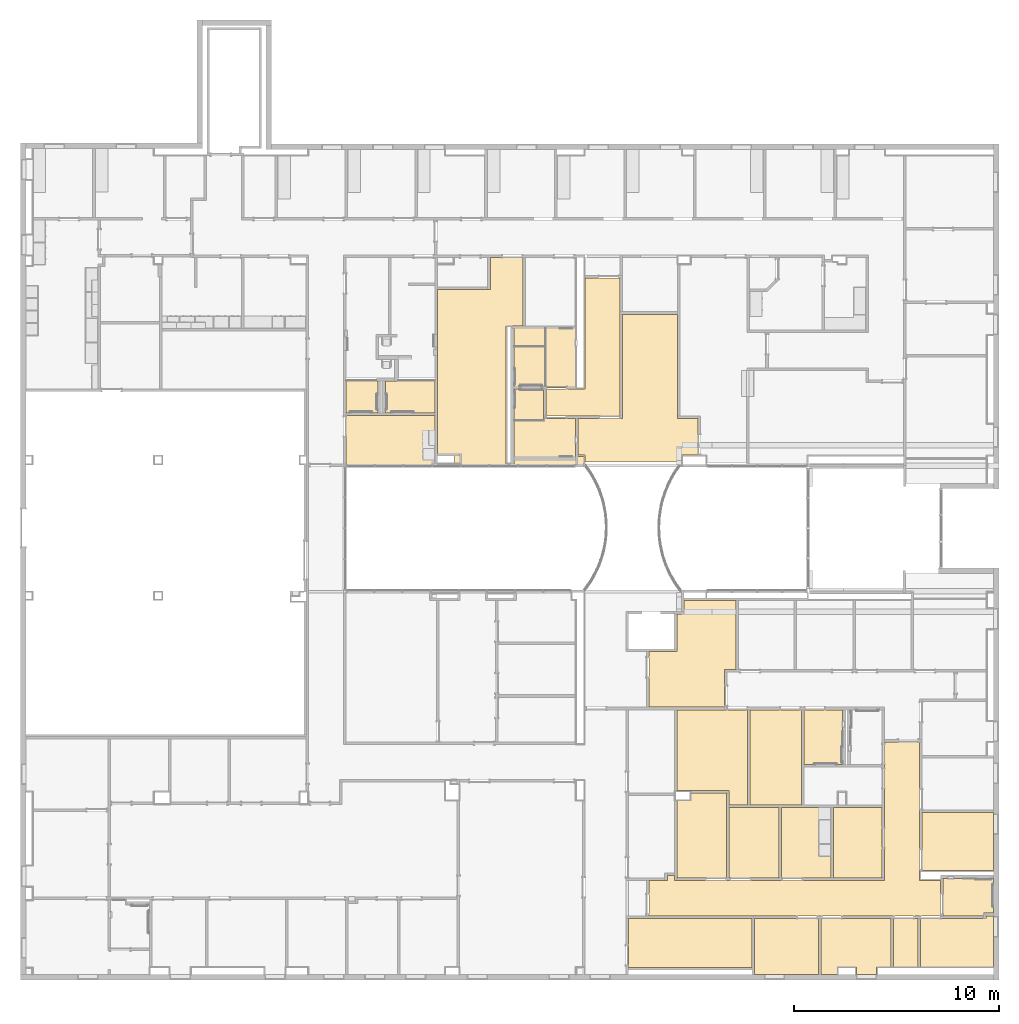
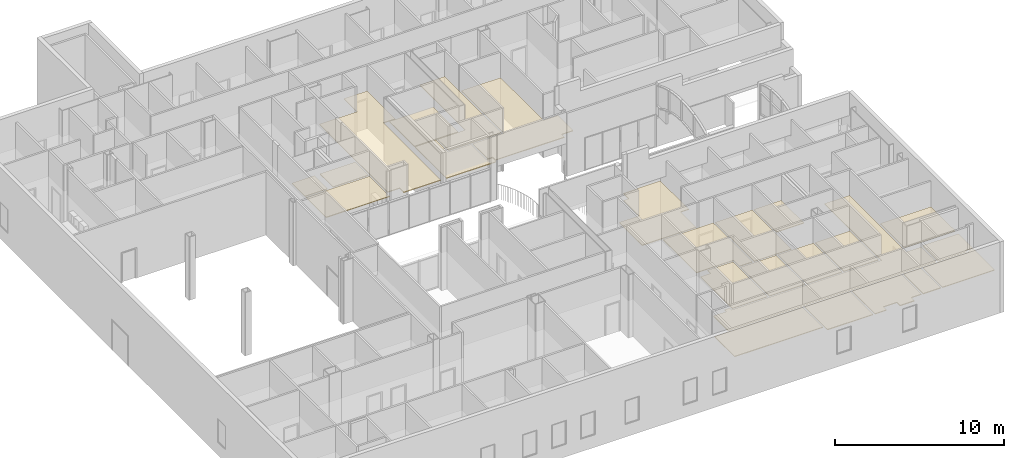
# One storey, part 27 of 45: 24 coverings.
"""IFC2X3 building model written with IfcOpenShell, lengths in metres."""

from ifc_helpers import new_model, entity, si_unit, converted_unit, frame, origin, place, context, project, spatial, face_set, surface_model, material, layer, layer_set, layer_usage, element, save


model = new_model("IFC2X3")

# Units and contexts
model_context = context("Model", 3, precision=1e-09, world=origin())
plan_context = context("Plan", 3, precision=1e-09, world=origin())
ifc_project = project(units=[si_unit("LENGTHUNIT", "METRE"), si_unit("AREAUNIT", "SQUARE_METRE"), si_unit("VOLUMEUNIT", "CUBIC_METRE"), converted_unit("PLANEANGLEUNIT", "DEGREE", entity("IfcRatioMeasure", 0.01745329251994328), si_unit("PLANEANGLEUNIT", "RADIAN"), dimensions=[0, 0, 0, 0, 0, 0, 0]), si_unit("TIMEUNIT", "SECOND")], contexts=[model_context, plan_context])

# Site, building, storey
site_placement = place(None, origin())
site = spatial("IfcSite", under=ifc_project, at=site_placement, Name="Default", CompositionType="ELEMENT")
building_placement = place(site_placement, origin())
building = spatial("IfcBuilding", under=site, at=building_placement, CompositionType="ELEMENT")
storey_placement = place(building_placement, frame((0.0, 0.0, 4.570000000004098)))
storey = spatial("IfcBuildingStorey", under=building, at=storey_placement, Name="Second Floor", CompositionType="ELEMENT", Elevation=4.570000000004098)

# Coverings
ifc_material_1 = material(Name="Default")
ifc_layer_1 = layer(ifc_material_1, 0.03599999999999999)
ifc_material_2 = material(Name="Ceiling Tile 600 x 600")
ifc_layer_2 = layer(ifc_material_2, 0.016)
ifc_layer_set = layer_set([ifc_layer_1, ifc_layer_2], Name="Compound Ceiling:ACT 600 x 600mm Grid")
ifc_layer_usage = layer_usage(ifc_layer_set, "AXIS3", "NEGATIVE", 0.0)
covering_1_placement = place(storey_placement, origin())
element("IfcCovering", 1, at=covering_1_placement, inside=storey, material=ifc_layer_usage, Name="Compound Ceiling:ACT 600 x 600mm Grid", ObjectType="Compound Ceiling:ACT 600 x 600mm Grid", PredefinedType="CEILING", context=model_context, shape_type="SurfaceModel", body=[
    surface_model("IfcFaceBasedSurfaceModel", [(0.1129999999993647, 14.61443871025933, 2.732000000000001), (0.112999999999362, 12.91843871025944, 2.732000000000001), (-0.3790000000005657, 12.91843871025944, 2.732000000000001), (-0.3790000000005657, 12.77999999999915, 2.732000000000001), (-2.340000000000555, 12.77999999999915, 2.732000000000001), (-2.340000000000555, 14.61443871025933, 2.732000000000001), (0.1129999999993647, 14.61443871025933, 2.680000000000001), (0.112999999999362, 12.91843871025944, 2.680000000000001), (-0.3790000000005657, 12.91843871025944, 2.680000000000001), (-0.3790000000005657, 12.77999999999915, 2.680000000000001), (-2.340000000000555, 12.77999999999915, 2.680000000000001), (-2.340000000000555, 14.61443871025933, 2.680000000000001)], [face_set([[[0, 1, 2, 3, 4, 5]], [[6, 7, 8, 9, 10, 11]], [[5, 11, 6, 0]], [[4, 10, 11, 5]], [[3, 4, 10, 9]], [[2, 3, 9, 8]], [[1, 2, 8, 7]], [[0, 1, 7, 6]]])]),
])
covering_2_placement = place(storey_placement, origin())
element("IfcCovering", 2, at=covering_2_placement, inside=storey, material=ifc_layer_usage, Name="Compound Ceiling:ACT 600 x 600mm Grid", ObjectType="Compound Ceiling:ACT 600 x 600mm Grid", PredefinedType="CEILING", context=model_context, shape_type="SurfaceModel", body=[
    surface_model("IfcFaceBasedSurfaceModel", [(-16.70600000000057, 25.68339999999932, 2.732000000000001), (-15.34600000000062, 25.68339999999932, 2.732000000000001), (-15.34600000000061, 27.52189999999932, 2.732000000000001), (-14.98597500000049, 27.52189999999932, 2.732000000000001), (-14.98597500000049, 28.18443871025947, 2.732000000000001), (-12.45397500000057, 28.18443871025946, 2.732000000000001), (-12.45397500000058, 24.80843871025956, 2.732000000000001), (-13.01000000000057, 24.80843871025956, 2.732000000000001), (-13.01000000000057, 22.97443871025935, 2.732000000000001), (-16.70600000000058, 22.97443871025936, 2.732000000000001), (-16.70600000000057, 25.68339999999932, 2.680000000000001), (-16.70600000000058, 22.97443871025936, 2.680000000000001), (-13.01000000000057, 22.97443871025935, 2.680000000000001), (-13.01000000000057, 24.80843871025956, 2.680000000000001), (-12.45397500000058, 24.80843871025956, 2.680000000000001), (-12.45397500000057, 28.18443871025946, 2.680000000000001), (-14.98597500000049, 28.18443871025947, 2.680000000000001), (-14.98597500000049, 27.52189999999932, 2.680000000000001), (-15.34600000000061, 27.52189999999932, 2.680000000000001), (-15.34600000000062, 25.68339999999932, 2.680000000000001)], [face_set([[[0, 1, 2, 3, 4, 5, 6, 7, 8, 9]], [[10, 11, 12, 13, 14, 15, 16, 17, 18, 19]], [[9, 11, 10, 0]], [[8, 9, 11, 12]], [[7, 8, 12, 13]], [[6, 7, 13, 14]], [[5, 6, 14, 15]], [[4, 16, 15, 5]], [[3, 17, 16, 4]], [[2, 18, 17, 3]], [[1, 19, 18, 2]], [[0, 10, 19, 1]]])]),
])
covering_3_placement = place(storey_placement, origin())
element("IfcCovering", 3, at=covering_3_placement, inside=storey, material=ifc_layer_usage, Name="Compound Ceiling:ACT 600 x 600mm Grid", ObjectType="Compound Ceiling:ACT 600 x 600mm Grid", PredefinedType="CEILING", context=model_context, shape_type="SurfaceModel", body=[
    surface_model("IfcFaceBasedSurfaceModel", [(-20.29000000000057, 41.54043871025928, 2.732000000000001), (-20.29000000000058, 38.56835336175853, 2.732000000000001), (-23.2900000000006, 38.56835336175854, 2.732000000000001), (-23.2900000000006, 41.54043871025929, 2.732000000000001), (-20.29000000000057, 41.54043871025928, 2.680000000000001), (-20.29000000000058, 38.56835336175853, 2.680000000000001), (-23.2900000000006, 38.56835336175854, 2.680000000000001), (-23.2900000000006, 41.54043871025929, 2.680000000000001)], [face_set([[[0, 1, 2, 3]], [[4, 5, 6, 7]], [[3, 7, 4, 0]], [[2, 6, 7, 3]], [[1, 2, 6, 5]], [[0, 1, 5, 4]]])]),
])
covering_4_placement = place(storey_placement, origin())
element("IfcCovering", 4, at=covering_4_placement, inside=storey, material=ifc_layer_usage, Name="Compound Ceiling:ACT 600 x 600mm Grid", ObjectType="Compound Ceiling:ACT 600 x 600mm Grid", PredefinedType="CEILING", context=model_context, shape_type="SurfaceModel", body=[
    surface_model("IfcFaceBasedSurfaceModel", [(-21.85400000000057, 37.07443871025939, 2.732000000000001), (-20.29000000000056, 37.07443871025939, 2.732000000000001), (-20.29000000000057, 35.22043871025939, 2.732000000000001), (-19.88400000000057, 35.22043871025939, 2.732000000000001), (-19.88400000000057, 34.77180159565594, 2.732000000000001), (-23.29000000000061, 34.77180159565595, 2.732000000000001), (-23.2900000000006, 38.51435336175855, 2.732000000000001), (-21.85400000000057, 38.51435336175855, 2.732000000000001), (-21.85400000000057, 37.07443871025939, 2.680000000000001), (-20.29000000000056, 37.07443871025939, 2.680000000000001), (-20.29000000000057, 35.22043871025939, 2.680000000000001), (-19.88400000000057, 35.22043871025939, 2.680000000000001), (-19.88400000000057, 34.77180159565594, 2.680000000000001), (-23.29000000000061, 34.77180159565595, 2.680000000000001), (-23.2900000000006, 38.51435336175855, 2.680000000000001), (-21.85400000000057, 38.51435336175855, 2.680000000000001)], [face_set([[[0, 1, 2, 3, 4, 5, 6, 7]], [[8, 9, 10, 11, 12, 13, 14, 15]], [[7, 0, 8, 15]], [[6, 14, 15, 7]], [[5, 13, 14, 6]], [[4, 5, 13, 12]], [[3, 4, 12, 11]], [[2, 10, 11, 3]], [[1, 2, 10, 9]], [[0, 8, 9, 1]]])]),
])
covering_5_placement = place(storey_placement, origin())
element("IfcCovering", 5, at=covering_5_placement, inside=storey, material=ifc_layer_usage, Name="Compound Ceiling:ACT 600 x 600mm Grid", ObjectType="Compound Ceiling:ACT 600 x 600mm Grid", PredefinedType="CEILING", context=model_context, shape_type="SurfaceModel", body=[
    surface_model("IfcFaceBasedSurfaceModel", [(-4.776000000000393, 12.65599999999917, 2.732000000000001), (-3.574000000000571, 12.65599999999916, 2.732000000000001), (-3.574000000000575, 10.30443871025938, 2.732000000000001), (-4.776000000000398, 10.30443871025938, 2.732000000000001), (-4.776000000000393, 12.65599999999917, 2.680000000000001), (-3.574000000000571, 12.65599999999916, 2.680000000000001), (-3.574000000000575, 10.30443871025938, 2.680000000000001), (-4.776000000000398, 10.30443871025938, 2.680000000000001)], [face_set([[[0, 1, 2, 3]], [[4, 5, 6, 7]], [[3, 7, 4, 0]], [[2, 3, 7, 6]], [[1, 2, 6, 5]], [[0, 4, 5, 1]]])]),
])
covering_6_placement = place(storey_placement, origin())
element("IfcCovering", 6, at=covering_6_placement, inside=storey, material=ifc_layer_usage, Name="Compound Ceiling:ACT 600 x 600mm Grid", ObjectType="Compound Ceiling:ACT 600 x 600mm Grid", PredefinedType="CEILING", context=model_context, shape_type="SurfaceModel", body=[
    surface_model("IfcFaceBasedSurfaceModel", [(-0.2550000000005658, 12.65599999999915, 2.732000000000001), (-0.2550000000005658, 12.79443871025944, 2.732000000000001), (0.1129999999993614, 12.79443871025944, 2.732000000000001), (0.1129999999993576, 10.30443871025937, 2.732000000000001), (-3.450000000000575, 10.30443871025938, 2.732000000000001), (-3.450000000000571, 12.65599999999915, 2.732000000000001), (-0.2550000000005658, 12.65599999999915, 2.680000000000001), (-0.2550000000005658, 12.79443871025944, 2.680000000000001), (0.1129999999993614, 12.79443871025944, 2.680000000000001), (0.1129999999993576, 10.30443871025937, 2.680000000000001), (-3.450000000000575, 10.30443871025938, 2.680000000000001), (-3.450000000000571, 12.65599999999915, 2.680000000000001)], [face_set([[[0, 1, 2, 3, 4, 5]], [[6, 7, 8, 9, 10, 11]], [[5, 11, 6, 0]], [[4, 10, 11, 5]], [[3, 4, 10, 9]], [[2, 3, 9, 8]], [[1, 7, 8, 2]], [[0, 6, 7, 1]]])]),
])
covering_7_placement = place(storey_placement, origin())
element("IfcCovering", 7, at=covering_7_placement, inside=storey, material=ifc_layer_usage, Name="Compound Ceiling:ACT 600 x 600mm Grid", ObjectType="Compound Ceiling:ACT 600 x 600mm Grid", PredefinedType="CEILING", context=model_context, shape_type="SurfaceModel", body=[
    surface_model("IfcFaceBasedSurfaceModel", [(-3.366000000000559, 17.84393871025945, 2.732000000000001), (0.1129999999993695, 17.84393871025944, 2.732000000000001), (0.1129999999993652, 14.99443871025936, 2.732000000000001), (-3.366000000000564, 14.99443871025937, 2.732000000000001), (-3.366000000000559, 17.84393871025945, 2.680000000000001), (0.1129999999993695, 17.84393871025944, 2.680000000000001), (0.1129999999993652, 14.99443871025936, 2.680000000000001), (-3.366000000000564, 14.99443871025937, 2.680000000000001)], [face_set([[[0, 1, 2, 3]], [[4, 5, 6, 7]], [[3, 7, 4, 0]], [[2, 3, 7, 6]], [[1, 2, 6, 5]], [[0, 4, 5, 1]]])]),
])
covering_8_placement = place(storey_placement, origin())
element("IfcCovering", 8, at=covering_8_placement, inside=storey, material=ifc_layer_usage, Name="Compound Ceiling:ACT 600 x 600mm Grid", ObjectType="Compound Ceiling:ACT 600 x 600mm Grid", PredefinedType="CEILING", context=model_context, shape_type="SurfaceModel", body=[
    surface_model("IfcFaceBasedSurfaceModel", [(-15.46000000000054, 14.52443871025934, 2.732000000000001), (-5.200000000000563, 14.52443871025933, 2.732000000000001), (-5.200000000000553, 21.27703871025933, 2.732000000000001), (-3.490000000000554, 21.27703871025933, 2.732000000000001), (-3.490000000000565, 14.52443871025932, 2.732000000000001), (-2.464000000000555, 14.52443871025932, 2.732000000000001), (-2.464000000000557, 12.77999999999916, 2.732000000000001), (-16.70600000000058, 12.7799999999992, 2.732000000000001), (-16.70600000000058, 14.52443871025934, 2.732000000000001), (-15.81000000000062, 14.52443871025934, 2.732000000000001), (-15.81000000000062, 14.74943871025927, 2.732000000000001), (-15.46000000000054, 14.74943871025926, 2.732000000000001), (-15.46000000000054, 14.52443871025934, 2.680000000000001), (-15.46000000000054, 14.74943871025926, 2.680000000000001), (-15.81000000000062, 14.74943871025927, 2.680000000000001), (-15.81000000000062, 14.52443871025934, 2.680000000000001), (-16.70600000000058, 14.52443871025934, 2.680000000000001), (-16.70600000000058, 12.7799999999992, 2.680000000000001), (-2.464000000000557, 12.77999999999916, 2.680000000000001), (-2.464000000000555, 14.52443871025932, 2.680000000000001), (-3.490000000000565, 14.52443871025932, 2.680000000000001), (-3.490000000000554, 21.27703871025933, 2.680000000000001), (-5.200000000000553, 21.27703871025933, 2.680000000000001), (-5.200000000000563, 14.52443871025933, 2.680000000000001)], [face_set([[[0, 1, 2, 3, 4, 5, 6, 7, 8, 9, 10, 11]], [[12, 13, 14, 15, 16, 17, 18, 19, 20, 21, 22, 23]], [[11, 0, 12, 13]], [[10, 14, 13, 11]], [[9, 15, 14, 10]], [[8, 16, 15, 9]], [[7, 17, 16, 8]], [[6, 7, 17, 18]], [[5, 6, 18, 19]], [[4, 20, 19, 5]], [[3, 4, 20, 21]], [[2, 22, 21, 3]], [[1, 23, 22, 2]], [[0, 12, 23, 1]]])]),
])
covering_9_placement = place(storey_placement, origin())
element("IfcCovering", 9, at=covering_9_placement, inside=storey, material=ifc_layer_usage, Name="Compound Ceiling:ACT 600 x 600mm Grid", ObjectType="Compound Ceiling:ACT 600 x 600mm Grid", PredefinedType="CEILING", context=model_context, shape_type="SurfaceModel", body=[
    surface_model("IfcFaceBasedSurfaceModel", [(-29.56000000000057, 38.90976656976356, 2.732000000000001), (-29.00200000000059, 38.90976656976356, 2.732000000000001), (-27.15000000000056, 38.90976656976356, 2.732000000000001), (-27.15000000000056, 37.34443871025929, 2.732000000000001), (-29.56000000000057, 37.3444387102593, 2.732000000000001), (-29.56000000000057, 38.90976656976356, 2.680000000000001), (-29.00200000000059, 38.90976656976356, 2.680000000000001), (-27.15000000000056, 38.90976656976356, 2.680000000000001), (-27.15000000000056, 37.34443871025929, 2.680000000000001), (-29.56000000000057, 37.3444387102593, 2.680000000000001)], [face_set([[[0, 1, 2, 3, 4]], [[5, 6, 7, 8, 9]], [[4, 9, 5, 0]], [[3, 4, 9, 8]], [[2, 3, 8, 7]], [[1, 6, 7, 2]], [[0, 5, 6, 1]]])]),
])
covering_10_placement = place(storey_placement, origin())
element("IfcCovering", 10, at=covering_10_placement, inside=storey, material=ifc_layer_usage, Name="Compound Ceiling:ACT 600 x 600mm Grid", ObjectType="Compound Ceiling:ACT 600 x 600mm Grid", PredefinedType="CEILING", context=model_context, shape_type="SurfaceModel", body=[
    surface_model("IfcFaceBasedSurfaceModel", [(-17.70600000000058, 12.65599999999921, 2.732000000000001), (-11.67399985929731, 12.65599999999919, 2.732000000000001), (-11.67399985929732, 10.26999983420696, 2.732000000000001), (-17.70600000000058, 10.26999983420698, 2.732000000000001), (-17.70600000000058, 12.65599999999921, 2.680000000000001), (-11.67399985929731, 12.65599999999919, 2.680000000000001), (-11.67399985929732, 10.26999983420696, 2.680000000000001), (-17.70600000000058, 10.26999983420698, 2.680000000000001)], [face_set([[[0, 1, 2, 3]], [[4, 5, 6, 7]], [[3, 7, 4, 0]], [[2, 3, 7, 6]], [[1, 2, 6, 5]], [[0, 4, 5, 1]]])]),
])
covering_11_placement = place(storey_placement, origin())
element("IfcCovering", 11, at=covering_11_placement, inside=storey, material=ifc_layer_usage, Name="Compound Ceiling:ACT 600 x 600mm Grid", ObjectType="Compound Ceiling:ACT 600 x 600mm Grid", PredefinedType="CEILING", context=model_context, shape_type="SurfaceModel", body=[
    surface_model("IfcFaceBasedSurfaceModel", [(-24.45000000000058, 43.36443871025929, 2.732000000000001), (-24.45000000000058, 44.92043871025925, 2.732000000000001), (-22.85400000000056, 44.92043871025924, 2.732000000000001), (-22.85400000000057, 41.5944387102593, 2.732000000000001), (-23.6700000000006, 41.5944387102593, 2.732000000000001), (-23.67000000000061, 34.77180159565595, 2.732000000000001), (-26.21000000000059, 34.77180159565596, 2.732000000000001), (-26.21000000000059, 35.2744387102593, 2.732000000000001), (-27.02600000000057, 35.2744387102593, 2.732000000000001), (-27.02600000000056, 43.3644387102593, 2.732000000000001), (-24.45000000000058, 43.36443871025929, 2.680000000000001), (-24.45000000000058, 44.92043871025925, 2.680000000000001), (-22.85400000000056, 44.92043871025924, 2.680000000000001), (-22.85400000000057, 41.5944387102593, 2.680000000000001), (-23.6700000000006, 41.5944387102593, 2.680000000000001), (-23.67000000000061, 34.77180159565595, 2.680000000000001), (-26.21000000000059, 34.77180159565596, 2.680000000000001), (-26.21000000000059, 35.2744387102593, 2.680000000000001), (-27.02600000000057, 35.2744387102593, 2.680000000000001), (-27.02600000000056, 43.3644387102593, 2.680000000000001)], [face_set([[[0, 1, 2, 3, 4, 5, 6, 7, 8, 9]], [[10, 11, 12, 13, 14, 15, 16, 17, 18, 19]], [[9, 19, 10, 0]], [[8, 18, 19, 9]], [[7, 8, 18, 17]], [[6, 16, 17, 7]], [[5, 6, 16, 15]], [[4, 5, 15, 14]], [[3, 4, 14, 13]], [[2, 3, 13, 12]], [[1, 11, 12, 2]], [[0, 10, 11, 1]]])]),
])
covering_12_placement = place(storey_placement, origin())
element("IfcCovering", 12, at=covering_12_placement, inside=storey, material=ifc_layer_usage, Name="Compound Ceiling:ACT 600 x 600mm Grid", ObjectType="Compound Ceiling:ACT 600 x 600mm Grid", PredefinedType="CEILING", context=model_context, shape_type="SurfaceModel", body=[
    surface_model("IfcFaceBasedSurfaceModel", [(-14.32000000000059, 35.27443871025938, 2.732000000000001), (-15.10997500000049, 35.27443871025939, 2.732000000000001), (-15.10997500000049, 34.94688750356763, 2.732000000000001), (-19.83000000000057, 34.94688750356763, 2.732000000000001), (-19.83000000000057, 35.2744387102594, 2.732000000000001), (-20.16600000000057, 35.2744387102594, 2.732000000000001), (-20.16600000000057, 37.07443871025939, 2.732000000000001), (-18.00500000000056, 37.07443871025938, 2.732000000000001), (-18.00500000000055, 42.15600069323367, 2.732000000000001), (-15.32000000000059, 42.15600069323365, 2.732000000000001), (-15.3200000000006, 37.07443871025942, 2.732000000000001), (-14.32000000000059, 37.07443871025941, 2.732000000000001), (-14.32000000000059, 35.27443871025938, 2.680000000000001), (-14.32000000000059, 37.07443871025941, 2.680000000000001), (-15.3200000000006, 37.07443871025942, 2.680000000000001), (-15.32000000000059, 42.15600069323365, 2.680000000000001), (-18.00500000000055, 42.15600069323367, 2.680000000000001), (-18.00500000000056, 37.07443871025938, 2.680000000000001), (-20.16600000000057, 37.07443871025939, 2.680000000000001), (-20.16600000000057, 35.2744387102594, 2.680000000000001), (-19.83000000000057, 35.2744387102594, 2.680000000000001), (-19.83000000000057, 34.94688750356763, 2.680000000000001), (-15.10997500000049, 34.94688750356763, 2.680000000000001), (-15.10997500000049, 35.27443871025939, 2.680000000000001)], [face_set([[[0, 1, 2, 3, 4, 5, 6, 7, 8, 9, 10, 11]], [[12, 13, 14, 15, 16, 17, 18, 19, 20, 21, 22, 23]], [[11, 0, 12, 13]], [[10, 14, 13, 11]], [[9, 10, 14, 15]], [[8, 16, 15, 9]], [[7, 17, 16, 8]], [[6, 18, 17, 7]], [[5, 19, 18, 6]], [[4, 5, 19, 20]], [[3, 21, 20, 4]], [[2, 3, 21, 22]], [[1, 2, 22, 23]], [[0, 1, 23, 12]]])]),
])
covering_13_placement = place(storey_placement, origin())
element("IfcCovering", 13, at=covering_13_placement, inside=storey, material=ifc_layer_usage, Name="Compound Ceiling:ACT 600 x 600mm Grid", ObjectType="Compound Ceiling:ACT 600 x 600mm Grid", PredefinedType="CEILING", context=model_context, shape_type="SurfaceModel", body=[
    surface_model("IfcFaceBasedSurfaceModel", [(-5.324000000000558, 18.08043871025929, 2.732000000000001), (-5.324000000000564, 14.64843871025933, 2.732000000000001), (-7.69600000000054, 14.64843871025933, 2.732000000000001), (-7.696000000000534, 18.08043871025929, 2.732000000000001), (-5.324000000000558, 18.08043871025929, 2.680000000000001), (-5.324000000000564, 14.64843871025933, 2.680000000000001), (-7.69600000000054, 14.64843871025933, 2.680000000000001), (-7.696000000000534, 18.08043871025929, 2.680000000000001)], [face_set([[[0, 1, 2, 3]], [[4, 5, 6, 7]], [[3, 7, 4, 0]], [[2, 6, 7, 3]], [[1, 2, 6, 5]], [[0, 1, 5, 4]]])]),
])
covering_14_placement = place(storey_placement, origin())
element("IfcCovering", 14, at=covering_14_placement, inside=storey, material=ifc_layer_usage, Name="Compound Ceiling:ACT 600 x 600mm Grid", ObjectType="Compound Ceiling:ACT 600 x 600mm Grid", PredefinedType="CEILING", context=model_context, shape_type="SurfaceModel", body=[
    surface_model("IfcFaceBasedSurfaceModel", [(-31.48600000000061, 34.83380159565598, 2.732000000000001), (-31.48600000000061, 37.2204387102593, 2.732000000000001), (-27.15000000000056, 37.22043871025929, 2.732000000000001), (-27.15000000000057, 34.83380159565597, 2.732000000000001), (-31.48600000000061, 34.83380159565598, 2.680000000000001), (-31.48600000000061, 37.2204387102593, 2.680000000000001), (-27.15000000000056, 37.22043871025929, 2.680000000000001), (-27.15000000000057, 34.83380159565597, 2.680000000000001)], [face_set([[[0, 1, 2, 3]], [[4, 5, 6, 7]], [[3, 0, 4, 7]], [[2, 3, 7, 6]], [[1, 5, 6, 2]], [[0, 4, 5, 1]]])]),
])
covering_15_placement = place(storey_placement, origin())
element("IfcCovering", 15, at=covering_15_placement, inside=storey, material=ifc_layer_usage, Name="Compound Ceiling:ACT 600 x 600mm Grid", ObjectType="Compound Ceiling:ACT 600 x 600mm Grid", PredefinedType="CEILING", context=model_context, shape_type="SurfaceModel", body=[
    surface_model("IfcFaceBasedSurfaceModel", [(-29.94000000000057, 37.3444387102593, 2.732000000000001), (-31.48600000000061, 37.3444387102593, 2.732000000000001), (-31.48600000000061, 38.90976656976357, 2.732000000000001), (-29.94000000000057, 38.90976656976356, 2.732000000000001), (-29.94000000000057, 37.3444387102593, 2.680000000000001), (-31.48600000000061, 37.3444387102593, 2.680000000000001), (-31.48600000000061, 38.90976656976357, 2.680000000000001), (-29.94000000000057, 38.90976656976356, 2.680000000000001)], [face_set([[[0, 1, 2, 3]], [[4, 5, 6, 7]], [[3, 0, 4, 7]], [[2, 6, 7, 3]], [[1, 5, 6, 2]], [[0, 1, 5, 4]]])]),
])
covering_16_placement = place(storey_placement, origin())
element("IfcCovering", 16, at=covering_16_placement, inside=storey, material=ifc_layer_usage, Name="Compound Ceiling:ACT 600 x 600mm Grid", ObjectType="Compound Ceiling:ACT 600 x 600mm Grid", PredefinedType="CEILING", context=model_context, shape_type="SurfaceModel", body=[
    surface_model("IfcFaceBasedSurfaceModel", [(-15.33600000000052, 22.85043871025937, 2.732000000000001), (-12.94800000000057, 22.85043871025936, 2.732000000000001), (-11.90000000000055, 22.85043871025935, 2.732000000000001), (-11.90000000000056, 18.20443871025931, 2.732000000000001), (-12.79000000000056, 18.20443871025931, 2.732000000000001), (-12.79000000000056, 18.90443871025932, 2.732000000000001), (-15.33600000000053, 18.90443871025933, 2.732000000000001), (-15.33600000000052, 22.85043871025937, 2.680000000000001), (-12.94800000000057, 22.85043871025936, 2.680000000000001), (-11.90000000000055, 22.85043871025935, 2.680000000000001), (-11.90000000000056, 18.20443871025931, 2.680000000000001), (-12.79000000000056, 18.20443871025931, 2.680000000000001), (-12.79000000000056, 18.90443871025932, 2.680000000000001), (-15.33600000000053, 18.90443871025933, 2.680000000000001)], [face_set([[[0, 1, 2, 3, 4, 5, 6]], [[7, 8, 9, 10, 11, 12, 13]], [[6, 13, 7, 0]], [[5, 6, 13, 12]], [[4, 11, 12, 5]], [[3, 4, 11, 10]], [[2, 3, 10, 9]], [[1, 8, 9, 2]], [[0, 7, 8, 1]]])]),
])
covering_17_placement = place(storey_placement, origin())
element("IfcCovering", 17, at=covering_17_placement, inside=storey, material=ifc_layer_usage, Name="Compound Ceiling:ACT 600 x 600mm Grid", ObjectType="Compound Ceiling:ACT 600 x 600mm Grid", PredefinedType="CEILING", context=model_context, shape_type="SurfaceModel", body=[
    surface_model("IfcFaceBasedSurfaceModel", [(-5.585003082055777, 10.30443871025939, 2.732000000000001), (-5.585003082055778, 9.926999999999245, 2.732000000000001), (-6.585003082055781, 9.926999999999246, 2.732000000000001), (-6.585003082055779, 10.30443871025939, 2.732000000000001), (-7.510000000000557, 10.30443871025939, 2.732000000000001), (-7.510000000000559, 9.92699999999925, 2.732000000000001), (-8.296000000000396, 9.926999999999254, 2.732000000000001), (-8.29600000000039, 12.65599999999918, 2.732000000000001), (-4.900000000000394, 12.65599999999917, 2.732000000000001), (-4.900000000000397, 10.30443871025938, 2.732000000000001), (-5.585003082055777, 10.30443871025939, 2.680000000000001), (-5.585003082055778, 9.926999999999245, 2.680000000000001), (-6.585003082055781, 9.926999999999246, 2.680000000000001), (-6.585003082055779, 10.30443871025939, 2.680000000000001), (-7.510000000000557, 10.30443871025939, 2.680000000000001), (-7.510000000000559, 9.92699999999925, 2.680000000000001), (-8.296000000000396, 9.926999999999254, 2.680000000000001), (-8.29600000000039, 12.65599999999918, 2.680000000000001), (-4.900000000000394, 12.65599999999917, 2.680000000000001), (-4.900000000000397, 10.30443871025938, 2.680000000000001)], [face_set([[[0, 1, 2, 3, 4, 5, 6, 7, 8, 9]], [[10, 11, 12, 13, 14, 15, 16, 17, 18, 19]], [[9, 0, 10, 19]], [[8, 9, 19, 18]], [[7, 17, 18, 8]], [[6, 16, 17, 7]], [[5, 6, 16, 15]], [[4, 5, 15, 14]], [[3, 4, 14, 13]], [[2, 12, 13, 3]], [[1, 2, 12, 11]], [[0, 1, 11, 10]]])]),
])
covering_18_placement = place(storey_placement, origin())
element("IfcCovering", 18, at=covering_18_placement, inside=storey, material=ifc_layer_usage, Name="Compound Ceiling:ACT 600 x 600mm Grid", ObjectType="Compound Ceiling:ACT 600 x 600mm Grid", PredefinedType="CEILING", context=model_context, shape_type="SurfaceModel", body=[
    surface_model("IfcFaceBasedSurfaceModel", [(-10.35000000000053, 18.0804387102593, 2.732000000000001), (-10.35000000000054, 14.64843871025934, 2.732000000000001), (-12.79000000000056, 14.64843871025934, 2.732000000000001), (-12.79000000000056, 18.08043871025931, 2.732000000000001), (-10.35000000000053, 18.0804387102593, 2.680000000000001), (-10.35000000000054, 14.64843871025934, 2.680000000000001), (-12.79000000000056, 14.64843871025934, 2.680000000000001), (-12.79000000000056, 18.08043871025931, 2.680000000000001)], [face_set([[[0, 1, 2, 3]], [[4, 5, 6, 7]], [[3, 7, 4, 0]], [[2, 6, 7, 3]], [[1, 2, 6, 5]], [[0, 1, 5, 4]]])]),
])
covering_19_placement = place(storey_placement, origin())
element("IfcCovering", 19, at=covering_19_placement, inside=storey, material=ifc_layer_usage, Name="Compound Ceiling:ACT 600 x 600mm Grid", ObjectType="Compound Ceiling:ACT 600 x 600mm Grid", PredefinedType="CEILING", context=model_context, shape_type="SurfaceModel", body=[
    surface_model("IfcFaceBasedSurfaceModel", [(-9.12600000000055, 22.85043871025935, 2.732000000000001), (-7.250000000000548, 22.85043871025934, 2.732000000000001), (-7.250000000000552, 20.17843871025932, 2.732000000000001), (-9.126000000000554, 20.17843871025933, 2.732000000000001), (-9.12600000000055, 22.85043871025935, 2.680000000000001), (-7.250000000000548, 22.85043871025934, 2.680000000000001), (-7.250000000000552, 20.17843871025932, 2.680000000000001), (-9.126000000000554, 20.17843871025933, 2.680000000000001)], [face_set([[[0, 1, 2, 3]], [[4, 5, 6, 7]], [[3, 7, 4, 0]], [[2, 3, 7, 6]], [[1, 2, 6, 5]], [[0, 4, 5, 1]]])]),
])
covering_20_placement = place(storey_placement, origin())
element("IfcCovering", 20, at=covering_20_placement, inside=storey, material=ifc_layer_usage, Name="Compound Ceiling:ACT 600 x 600mm Grid", ObjectType="Compound Ceiling:ACT 600 x 600mm Grid", PredefinedType="CEILING", context=model_context, shape_type="SurfaceModel", body=[
    surface_model("IfcFaceBasedSurfaceModel", [(-12.91400000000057, 14.64843871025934, 2.732000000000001), (-15.33600000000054, 14.64843871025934, 2.732000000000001), (-15.33600000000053, 18.41443871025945, 2.732000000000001), (-14.64997500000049, 18.41443871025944, 2.732000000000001), (-14.64997500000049, 18.78043871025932, 2.732000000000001), (-12.91400000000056, 18.78043871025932, 2.732000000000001), (-12.91400000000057, 14.64843871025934, 2.680000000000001), (-15.33600000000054, 14.64843871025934, 2.680000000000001), (-15.33600000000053, 18.41443871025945, 2.680000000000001), (-14.64997500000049, 18.41443871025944, 2.680000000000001), (-14.64997500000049, 18.78043871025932, 2.680000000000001), (-12.91400000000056, 18.78043871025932, 2.680000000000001)], [face_set([[[0, 1, 2, 3, 4, 5]], [[6, 7, 8, 9, 10, 11]], [[5, 0, 6, 11]], [[4, 10, 11, 5]], [[3, 9, 10, 4]], [[2, 8, 9, 3]], [[1, 7, 8, 2]], [[0, 1, 7, 6]]])]),
])
covering_21_placement = place(storey_placement, origin())
element("IfcCovering", 21, at=covering_21_placement, inside=storey, material=ifc_layer_usage, Name="Compound Ceiling:ACT 600 x 600mm Grid", ObjectType="Compound Ceiling:ACT 600 x 600mm Grid", PredefinedType="CEILING", context=model_context, shape_type="SurfaceModel", body=[
    surface_model("IfcFaceBasedSurfaceModel", [(-21.73000000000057, 38.51435336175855, 2.732000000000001), (-19.83000000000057, 38.51435336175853, 2.732000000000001), (-19.83000000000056, 43.91543871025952, 2.732000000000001), (-18.12900000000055, 43.9154387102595, 2.732000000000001), (-18.12900000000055, 42.28643871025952, 2.732000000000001), (-18.12900000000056, 37.19843871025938, 2.732000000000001), (-21.73000000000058, 37.1984387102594, 2.732000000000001), (-21.73000000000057, 38.51435336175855, 2.680000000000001), (-21.73000000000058, 37.1984387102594, 2.680000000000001), (-18.12900000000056, 37.19843871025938, 2.680000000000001), (-18.12900000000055, 42.28643871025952, 2.680000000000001), (-18.12900000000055, 43.9154387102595, 2.680000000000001), (-19.83000000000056, 43.91543871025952, 2.680000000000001), (-19.83000000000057, 38.51435336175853, 2.680000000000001)], [face_set([[[0, 1, 2, 3, 4, 5, 6]], [[7, 8, 9, 10, 11, 12, 13]], [[6, 8, 7, 0]], [[5, 6, 8, 9]], [[4, 5, 9, 10]], [[3, 4, 10, 11]], [[2, 12, 11, 3]], [[1, 13, 12, 2]], [[0, 7, 13, 1]]])]),
])
covering_22_placement = place(storey_placement, origin())
element("IfcCovering", 22, at=covering_22_placement, inside=storey, material=ifc_layer_usage, Name="Compound Ceiling:ACT 600 x 600mm Grid", ObjectType="Compound Ceiling:ACT 600 x 600mm Grid", PredefinedType="CEILING", context=model_context, shape_type="SurfaceModel", body=[
    surface_model("IfcFaceBasedSurfaceModel", [(-8.42000000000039, 12.65599999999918, 2.732000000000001), (-8.420000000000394, 9.926999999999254, 2.732000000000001), (-11.54999985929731, 9.926999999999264, 2.732000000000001), (-11.54999985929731, 12.65599999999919, 2.732000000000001), (-8.42000000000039, 12.65599999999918, 2.680000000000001), (-8.420000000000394, 9.926999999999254, 2.680000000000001), (-11.54999985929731, 9.926999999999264, 2.680000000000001), (-11.54999985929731, 12.65599999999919, 2.680000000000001)], [face_set([[[0, 1, 2, 3]], [[4, 5, 6, 7]], [[3, 7, 4, 0]], [[2, 6, 7, 3]], [[1, 2, 6, 5]], [[0, 1, 5, 4]]])]),
])
covering_23_placement = place(storey_placement, origin())
element("IfcCovering", 23, at=covering_23_placement, inside=storey, material=ifc_layer_usage, Name="Compound Ceiling:ACT 600 x 600mm Grid", ObjectType="Compound Ceiling:ACT 600 x 600mm Grid", PredefinedType="CEILING", context=model_context, shape_type="SurfaceModel", body=[
    surface_model("IfcFaceBasedSurfaceModel", [(-7.820000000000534, 18.08043871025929, 2.732000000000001), (-7.820000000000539, 14.64843871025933, 2.732000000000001), (-10.22600000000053, 14.64843871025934, 2.732000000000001), (-10.22600000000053, 18.0804387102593, 2.732000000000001), (-7.820000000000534, 18.08043871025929, 2.680000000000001), (-7.820000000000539, 14.64843871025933, 2.680000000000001), (-10.22600000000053, 14.64843871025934, 2.680000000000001), (-10.22600000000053, 18.0804387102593, 2.680000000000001)], [face_set([[[0, 1, 2, 3]], [[4, 5, 6, 7]], [[3, 7, 4, 0]], [[2, 6, 7, 3]], [[1, 2, 6, 5]], [[0, 1, 5, 4]]])]),
])
covering_24_placement = place(storey_placement, origin())
element("IfcCovering", 24, at=covering_24_placement, inside=storey, material=ifc_layer_usage, Name="Compound Ceiling:ACT 600 x 600mm Grid", ObjectType="Compound Ceiling:ACT 600 x 600mm Grid", PredefinedType="CEILING", context=model_context, shape_type="SurfaceModel", body=[
    surface_model("IfcFaceBasedSurfaceModel", [(-11.77600000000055, 22.85043871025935, 2.732000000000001), (-9.250000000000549, 22.85043871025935, 2.732000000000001), (-9.250000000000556, 18.2044387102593, 2.732000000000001), (-11.77600000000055, 18.20443871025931, 2.732000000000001), (-11.77600000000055, 22.85043871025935, 2.680000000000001), (-9.250000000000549, 22.85043871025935, 2.680000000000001), (-9.250000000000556, 18.2044387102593, 2.680000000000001), (-11.77600000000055, 18.20443871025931, 2.680000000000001)], [face_set([[[0, 1, 2, 3]], [[4, 5, 6, 7]], [[3, 7, 4, 0]], [[2, 3, 7, 6]], [[1, 2, 6, 5]], [[0, 4, 5, 1]]])]),
])

save(model, "model.ifc")
